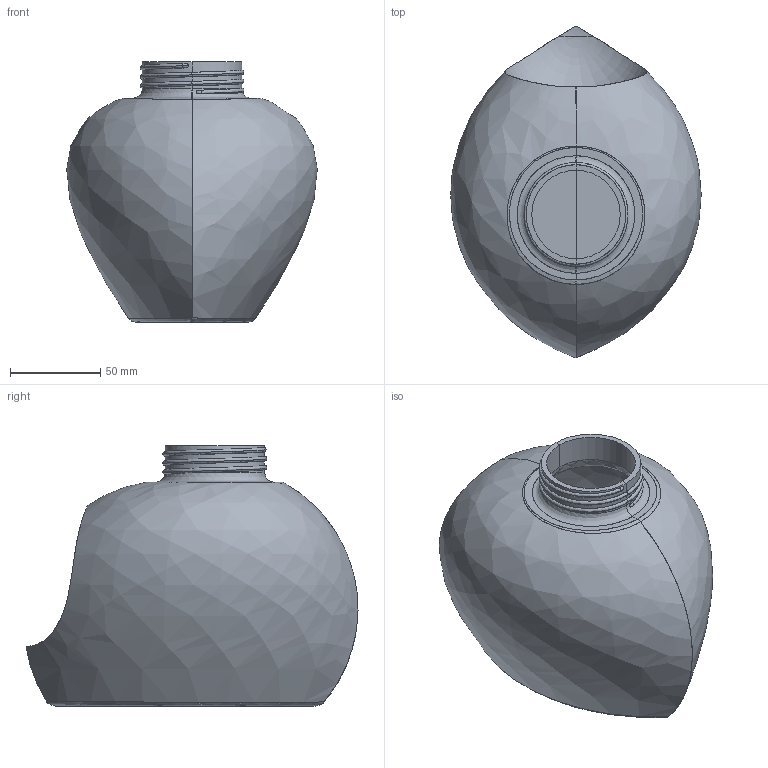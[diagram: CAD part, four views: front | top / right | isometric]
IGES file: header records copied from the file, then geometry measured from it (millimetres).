
Start section: START RECORD GO HERE.
Global section: file name: c1-Villanueva_Manye_Arnau-solucion-posible.igs; native system: IBM CATIA IGES - CATIA Version 5 Release 19 ; preprocessor: CATIA Version 5 Release 19 ; author: andres.garcia; organization: IQS; date: 20200131.144221; units: millimetre
Bounding box: 138.59 x 183.69 x 144 mm (x, y, z)
Surface area: 145420 mm2 (no closed solid volume)
Topology: 0 solids, 0 shells, 54 faces, 252 edges, 248 vertices
Faces by surface type: bspline 32, revolution 16, plane 6
